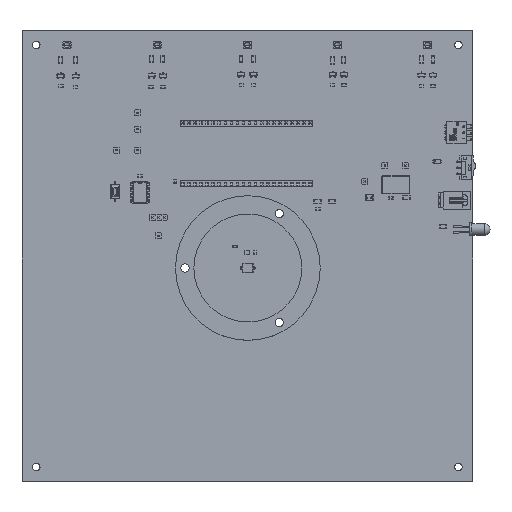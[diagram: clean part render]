
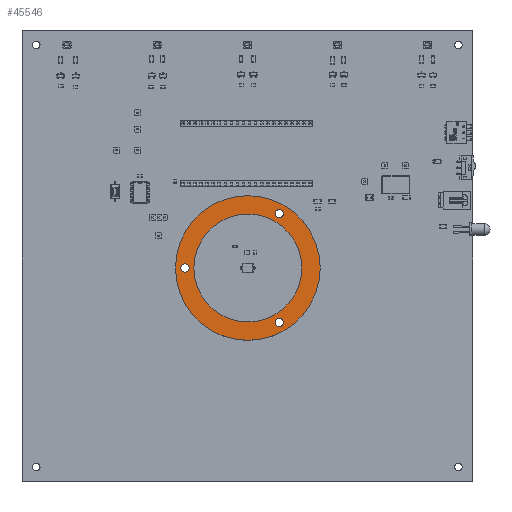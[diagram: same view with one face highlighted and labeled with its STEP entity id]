
A CAD part, top view. The second image highlights one B-rep face of the part: STEP entity #45546.
In plain terms, the highlighted planar face has unit normal (0, 0, 1).
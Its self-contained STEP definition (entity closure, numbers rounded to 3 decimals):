
#45474 = VERTEX_POINT('',#45475);
#45475 = CARTESIAN_POINT('',(30.5,0.,2.));
#45481 = EDGE_CURVE('',#45474,#45474,#45482,.T.);
#45482 = CIRCLE('',#45483,30.5);
#45483 = AXIS2_PLACEMENT_3D('',#45484,#45485,#45486);
#45484 = CARTESIAN_POINT('',(0.,0.,2.));
#45485 = DIRECTION('',(0.,0.,1.));
#45486 = DIRECTION('',(1.,0.,-0.));
#45546 = ADVANCED_FACE('',(#45547,#45550,#45561,#45572,#45583),#45594,
  .T.);
#45547 = FACE_BOUND('',#45548,.T.);
#45548 = EDGE_LOOP('',(#45549));
#45549 = ORIENTED_EDGE('',*,*,#45481,.T.);
#45550 = FACE_BOUND('',#45551,.T.);
#45551 = EDGE_LOOP('',(#45552));
#45552 = ORIENTED_EDGE('',*,*,#45553,.F.);
#45553 = EDGE_CURVE('',#45554,#45554,#45556,.T.);
#45554 = VERTEX_POINT('',#45555);
#45555 = CARTESIAN_POINT('',(12.375,-21.434,2.));
#45556 = CIRCLE('',#45557,1.75);
#45557 = AXIS2_PLACEMENT_3D('',#45558,#45559,#45560);
#45558 = CARTESIAN_POINT('',(13.25,-22.95,2.));
#45559 = DIRECTION('',(0.,0.,1.));
#45560 = DIRECTION('',(-0.5,0.866,0.));
#45561 = FACE_BOUND('',#45562,.T.);
#45562 = EDGE_LOOP('',(#45563));
#45563 = ORIENTED_EDGE('',*,*,#45564,.F.);
#45564 = EDGE_CURVE('',#45565,#45565,#45567,.T.);
#45565 = VERTEX_POINT('',#45566);
#45566 = CARTESIAN_POINT('',(-24.75,0.,2.));
#45567 = CIRCLE('',#45568,1.75);
#45568 = AXIS2_PLACEMENT_3D('',#45569,#45570,#45571);
#45569 = CARTESIAN_POINT('',(-26.5,0.,2.));
#45570 = DIRECTION('',(0.,0.,1.));
#45571 = DIRECTION('',(1.,0.,-0.));
#45572 = FACE_BOUND('',#45573,.T.);
#45573 = EDGE_LOOP('',(#45574));
#45574 = ORIENTED_EDGE('',*,*,#45575,.F.);
#45575 = EDGE_CURVE('',#45576,#45576,#45578,.T.);
#45576 = VERTEX_POINT('',#45577);
#45577 = CARTESIAN_POINT('',(22.75,0.,2.));
#45578 = CIRCLE('',#45579,22.75);
#45579 = AXIS2_PLACEMENT_3D('',#45580,#45581,#45582);
#45580 = CARTESIAN_POINT('',(0.,0.,2.));
#45581 = DIRECTION('',(0.,0.,1.));
#45582 = DIRECTION('',(1.,0.,-0.));
#45583 = FACE_BOUND('',#45584,.T.);
#45584 = EDGE_LOOP('',(#45585));
#45585 = ORIENTED_EDGE('',*,*,#45586,.F.);
#45586 = EDGE_CURVE('',#45587,#45587,#45589,.T.);
#45587 = VERTEX_POINT('',#45588);
#45588 = CARTESIAN_POINT('',(12.375,21.434,2.));
#45589 = CIRCLE('',#45590,1.75);
#45590 = AXIS2_PLACEMENT_3D('',#45591,#45592,#45593);
#45591 = CARTESIAN_POINT('',(13.25,22.95,2.));
#45592 = DIRECTION('',(0.,0.,1.));
#45593 = DIRECTION('',(-0.5,-0.866,0.));
#45594 = PLANE('',#45595);
#45595 = AXIS2_PLACEMENT_3D('',#45596,#45597,#45598);
#45596 = CARTESIAN_POINT('',(0.,0.,2.)
  );
#45597 = DIRECTION('',(0.,0.,1.));
#45598 = DIRECTION('',(1.,0.,-0.));
